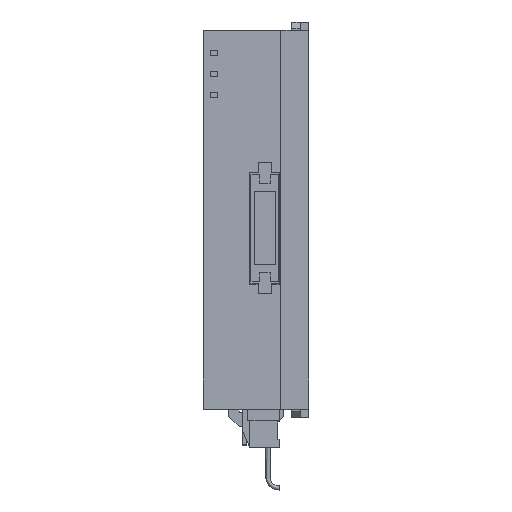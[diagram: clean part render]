
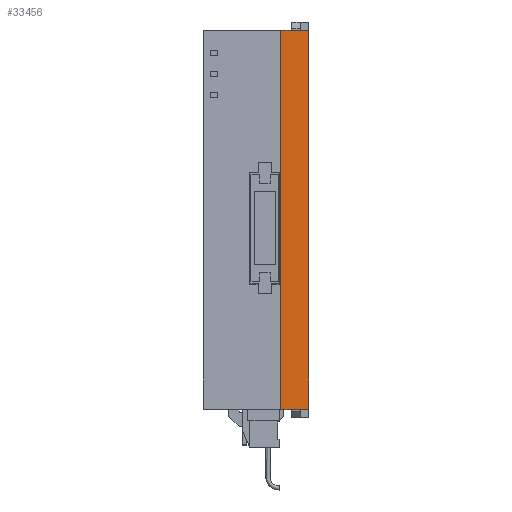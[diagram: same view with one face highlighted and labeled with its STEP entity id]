
A CAD part, top view. The second image highlights one B-rep face of the part: STEP entity #33456.
In plain terms, the highlighted planar face has unit normal (0, 0, 1).
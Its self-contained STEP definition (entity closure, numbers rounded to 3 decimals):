
#16671 = CARTESIAN_POINT ( 'NONE',  ( 5.9, -45., 60. ) ) ;
#16672 = DIRECTION ( 'NONE',  ( 1., 0., 0. ) ) ;
#16673 = VECTOR ( 'NONE', #16672, 1000. ) ;
#16674 = CARTESIAN_POINT ( 'NONE',  ( -12.5, -45., 60. ) ) ;
#16675 = LINE ( 'NONE', #16674, #16673 ) ;
#16751 = CARTESIAN_POINT ( 'NONE',  ( 12.5, -45., 60. ) ) ;
#18223 = DIRECTION ( 'NONE',  ( 0., 1., 0. ) ) ;
#18224 = VECTOR ( 'NONE', #18223, 1000. ) ;
#18225 = CARTESIAN_POINT ( 'NONE',  ( 12.5, 45., 60. ) ) ;
#18226 = LINE ( 'NONE', #18225, #18224 ) ;
#18231 = CARTESIAN_POINT ( 'NONE',  ( 12.5, 45., 60. ) ) ;
#18787 = CARTESIAN_POINT ( 'NONE',  ( 5.9, 45., 60. ) ) ;
#18869 = DIRECTION ( 'NONE',  ( -1., 0., 0. ) ) ;
#18870 = VECTOR ( 'NONE', #18869, 1000. ) ;
#18871 = CARTESIAN_POINT ( 'NONE',  ( -12.5, 45., 60. ) ) ;
#18872 = LINE ( 'NONE', #18871, #18870 ) ;
#19961 = DIRECTION ( 'NONE',  ( 0., -1., 0. ) ) ;
#19962 = VECTOR ( 'NONE', #19961, 1000. ) ;
#19963 = CARTESIAN_POINT ( 'NONE',  ( 5.9, 45., 60. ) ) ;
#19964 = LINE ( 'NONE', #19963, #19962 ) ;
#19980 = FACE_OUTER_BOUND ( 'NONE', #33457, .T. ) ;
#20018 = DIRECTION ( 'NONE',  ( 1., 0., 0. ) ) ;
#20019 = DIRECTION ( 'NONE',  ( 0., 0., 1. ) ) ;
#20020 = CARTESIAN_POINT ( 'NONE',  ( -12.5, -45., 60. ) ) ;
#20021 = AXIS2_PLACEMENT_3D ( 'NONE', #20020, #20019, #20018 ) ;
#20023 = PLANE ( 'NONE',  #20021 ) ;
#32069 = EDGE_CURVE ( 'NONE', #32070, #32097, #16675, .T. ) ;
#32070 = VERTEX_POINT ( 'NONE', #16671 ) ;
#32097 = VERTEX_POINT ( 'NONE', #16751 ) ;
#32503 = ORIENTED_EDGE ( 'NONE', *, *, #33032, .T. ) ;
#32746 = VERTEX_POINT ( 'NONE', #18231 ) ;
#32749 = EDGE_CURVE ( 'NONE', #32097, #32746, #18226, .T. ) ;
#32970 = VERTEX_POINT ( 'NONE', #18787 ) ;
#33032 = EDGE_CURVE ( 'NONE', #32746, #32970, #18872, .T. ) ;
#33434 = ORIENTED_EDGE ( 'NONE', *, *, #33435, .T. ) ;
#33435 = EDGE_CURVE ( 'NONE', #32970, #32070, #19964, .T. ) ;
#33436 = ORIENTED_EDGE ( 'NONE', *, *, #32069, .T. ) ;
#33437 = ORIENTED_EDGE ( 'NONE', *, *, #32749, .T. ) ;
#33456 = ADVANCED_FACE ( 'NONE', ( #19980 ), #20023, .T. ) ;
#33457 = EDGE_LOOP ( 'NONE', ( #32503, #33434, #33436, #33437 ) ) ;
